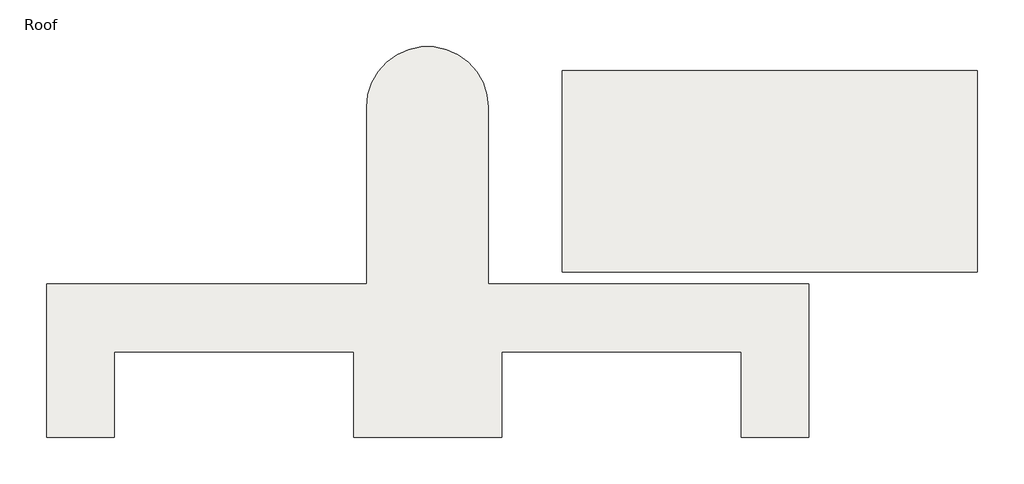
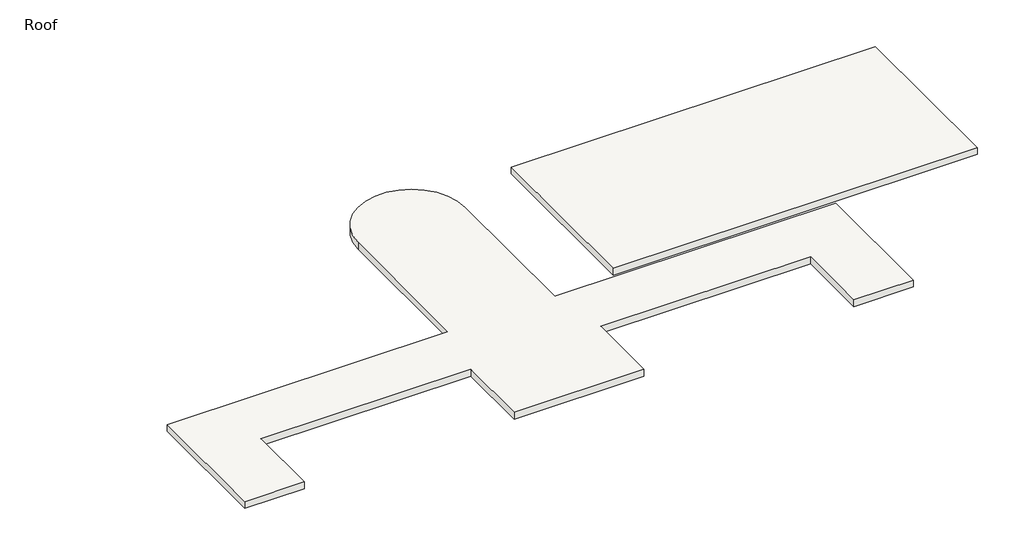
# One storey: 2 roofs.
"""IFC4 building model written with IfcOpenShell, lengths in millimetres."""

from ifc_helpers import new_model, si_unit, point, frame, frame_2d, origin, place, context, project, spatial, polyline, circle_curve, trimmed, segment, composite_curve, outline, extrude, element, save

model = new_model("IFC4")

# Units and contexts
model_context = context("Model", 3, world=origin())
ifc_project = project(units=[si_unit("LENGTHUNIT", "METRE", prefix="MILLI")], contexts=[model_context])

# Site, building, storey
site = spatial("IfcSite", under=ifc_project)
building = spatial("IfcBuilding", under=site)
storey = spatial("IfcBuildingStorey", under=building, Name="Roof", Elevation=12192.0)

# Roofs
placement = place(None, origin())
element("IfcRoof", 1, ObjectType="Generic - 9\"", at=placement, inside=storey, context=model_context, shape_type="SweptSolid", body=[
    extrude(outline(polyline([(-11217.2464563, 10270.0191867), (622.3285437, 10270.0191867), (622.3285437, 4526.4441867), (-11217.2464563, 4526.4441867), (-11217.2464563, 10270.0191867)])), frame((0.0, 0.0, 12192.0), z_axis=(0.0, 0.0, 1.0), x_axis=(1.0, 0.0, 0.0)), (0.0, 0.0, 1.0), 228.6),
])
element("IfcRoof", 2, ObjectType="Generic - 9\"", at=placement, inside=storey, context=model_context, shape_type="SweptSolid", body=[
    extrude(outline(composite_curve([segment(polyline([(-25934.9589563, -197.9558133), (-25934.9589563, 4174.0191867), (-16803.6589563, 4174.0191867), (-16803.6589563, 9227.0316867)]), True, "CONTINUOUS"), segment(trimmed(circle_curve(frame_2d((-15068.5214563, 9227.0316867)), 1735.1375), [point((-16803.6589563, 9227.0316867))], [point((-13333.3839563, 9227.0316867))], False, "CARTESIAN"), True, "CONTINUOUS"), segment(polyline([(-13333.3839563, 9227.0316867), (-13333.3839563, 4174.0191867), (-4189.3839563, 4174.0191867), (-4189.3839563, -197.9558133), (-6122.9589563, -197.9558133), (-6122.9589563, 2240.4441867), (-12952.3839563, 2240.4441867), (-12952.3839563, -197.9558133), (-17171.9589563, -197.9558133), (-17171.9589563, 2240.4441867), (-24001.3839563, 2240.4441867), (-24001.3839563, -197.9558133), (-25934.9589563, -197.9558133)]), True, "CONTINUOUS")], self_intersect=False)), frame((0.0, 0.0, 12192.0), z_axis=(0.0, 0.0, 1.0), x_axis=(1.0, 0.0, 0.0)), (0.0, 0.0, 1.0), 228.6),
])

save(model, "model.ifc")
